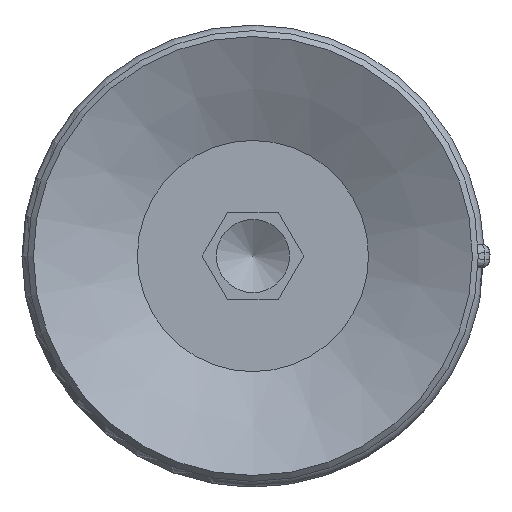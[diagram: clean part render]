
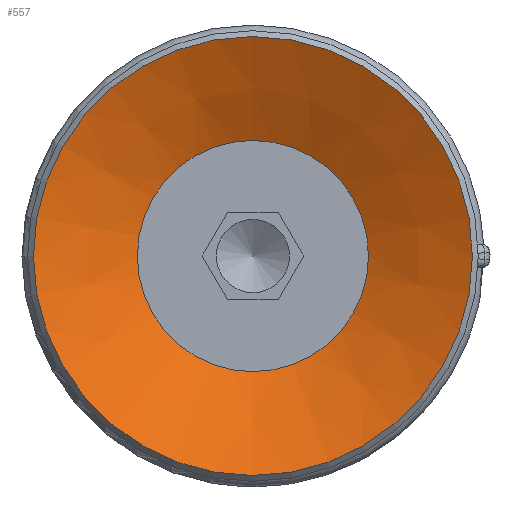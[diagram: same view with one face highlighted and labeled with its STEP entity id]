
A CAD part, front view. The second image highlights one B-rep face of the part: STEP entity #557.
In plain terms, the highlighted conical face has half-angle 64 degrees and reference radius 3.95 mm.
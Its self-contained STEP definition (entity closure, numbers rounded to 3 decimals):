
#557=ADVANCED_FACE('',(#817,#818),#819,.F.);
#817=FACE_BOUND('',#1166,.T.);
#818=FACE_OUTER_BOUND('',#1167,.T.);
#819=CONICAL_SURFACE('',#1168,3.95,1.117);
#1166=EDGE_LOOP('',(#1879));
#1167=EDGE_LOOP('',(#1880));
#1168=AXIS2_PLACEMENT_3D('',#1881,#1882,#1883);
#1879=ORIENTED_EDGE('',*,*,#2141,.F.);
#1880=ORIENTED_EDGE('',*,*,#2142,.T.);
#1881=CARTESIAN_POINT('',(0.0,-29.404,-47.168));
#1882=DIRECTION('',(-0.0,0.,1.0));
#1883=DIRECTION('',(0.0,-1.0,0.));
#2141=EDGE_CURVE('',#2469,#2469,#2470,.T.);
#2142=EDGE_CURVE('',#2471,#2471,#2472,.T.);
#2469=VERTEX_POINT('',#3375);
#2470=CIRCLE('',#3376,3.95);
#2471=VERTEX_POINT('',#3377);
#2472=CIRCLE('',#3378,7.5);
#3375=CARTESIAN_POINT('',(0.0,-33.354,-47.168));
#3376=AXIS2_PLACEMENT_3D('',#3710,#3711,#3712);
#3377=CARTESIAN_POINT('',(0.0,-36.904,-45.437));
#3378=AXIS2_PLACEMENT_3D('',#3713,#3714,#3715);
#3710=CARTESIAN_POINT('',(0.0,-29.404,-47.168));
#3711=DIRECTION('',(0.0,0.,1.0));
#3712=DIRECTION('',(0.0,-1.0,0.));
#3713=CARTESIAN_POINT('',(0.0,-29.404,-45.437));
#3714=DIRECTION('',(0.0,0.,1.0));
#3715=DIRECTION('',(0.0,-1.0,0.));
